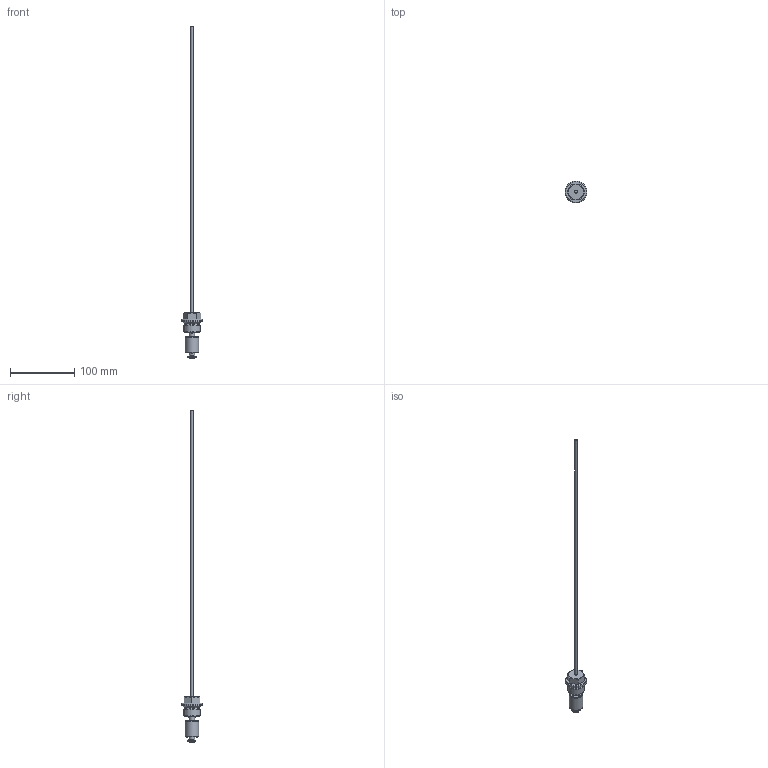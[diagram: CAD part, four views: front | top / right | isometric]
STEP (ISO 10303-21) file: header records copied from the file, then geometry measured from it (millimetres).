
FILE_DESCRIPTION(/* description */ (''),/* implementation_level */ '2;1');
FILE_NAME(/* name */ '207A20_A_1-NIG.stp',/* time_stamp */ '2018-07-02T16:17:23+02:00',/* author */ (''),/* organization */ (''),/* preprocessor_version */ 'ST-DEVELOPER v16',/* originating_system */ 'SIEMENS PLM Software NX 11.0',/* authorisation */ '');
FILE_SCHEMA (('AP203_CONFIGURATION_CONTROLLED_3D_DESIGN_OF_MECHANICAL_PARTS_AND_ASSEMBLIES_MIM_LF { 1 0 10303 403 2 1 2}'));
Length unit declared in the file: millimetre
Products named in the file (1): pr1m18F079CE84q9
Bounding box: 34 x 34 x 516 mm (x, y, z)
Volume: 28918.1 mm3; surface area: 16358.1 mm2
Topology: 3 solids, 3 shells, 88 faces, 194 edges, 125 vertices
Faces by surface type: plane 45, cylinder 24, cone 10, torus 6, sphere 3
Full cylindrical faces by diameter (mm): 4.1 x1, 7 x1, 8 x1, 8.1 x1, 8.15 x1, 9 x1, 10 x1, 12 x1, 20 x1, 21.1 x1, 26.441 x1, 34 x1
Entity records: 2348 total; most frequent: CARTESIAN_POINT 409, DIRECTION 402, ORIENTED_EDGE 322, AXIS2_PLACEMENT_3D 166, EDGE_CURVE 161, EDGE_LOOP 132, VERTEX_POINT 117, ADVANCED_FACE 88
